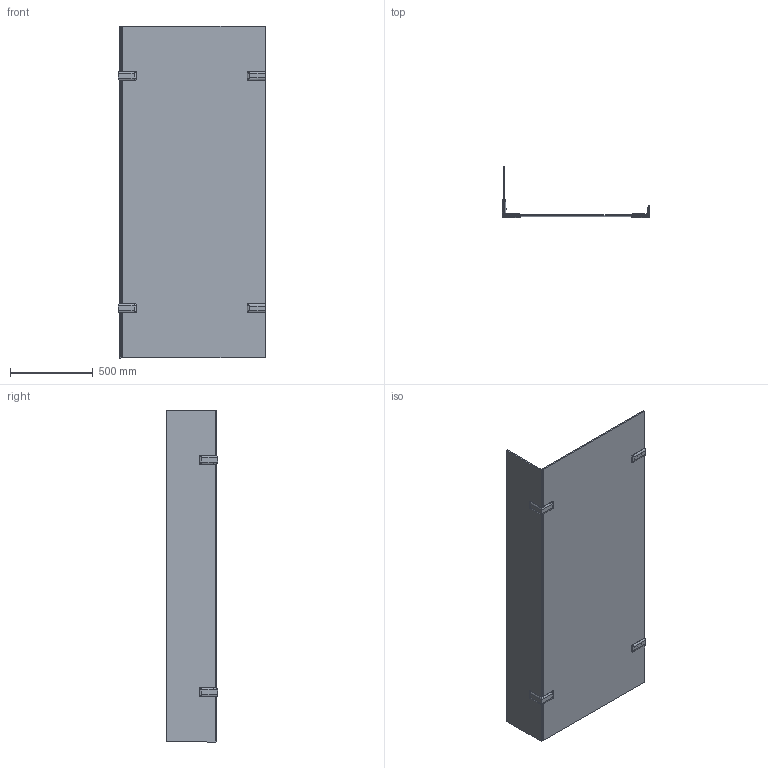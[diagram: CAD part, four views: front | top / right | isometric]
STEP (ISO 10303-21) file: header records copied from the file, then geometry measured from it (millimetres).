
FILE_DESCRIPTION(/* description */ (''),/* implementation_level */ '2;1');
FILE_NAME(/* name */ 'D:\2\GLASS LINE GK-882BN\GLASS LINE GK-882BN правая модель\GLASS LINE GK-882BN ПРАВАЯ-3D.stp',/* time_stamp */ '2020-04-30T19:35:04+03:00',/* author */ ('User'),/* organization */ (''),/* preprocessor_version */ 'ST-DEVELOPER v15.2',/* originating_system */ 'Autodesk Inventor 2014',/* authorisation */ '');
FILE_SCHEMA (('AUTOMOTIVE_DESIGN { 1 0 10303 214 3 1 1 }'));
Length unit declared in the file: millimetre
Products named in the file (1): GLASS LINE GK-882BN ПРАВАЯ-3D
Bounding box: 887 x 308 x 2000 mm (x, y, z)
Volume: 19068295.2 mm3; surface area: 4818602.9 mm2
Topology: 1 solids, 15 shells, 261 faces, 617 edges, 376 vertices
Faces by surface type: plane 109, cylinder 80, bspline 36, torus 22, sphere 8, cone 6
Full cylindrical faces by diameter (mm): 4.917 x4, 13 x8, 16 x8, 28 x2, 28.5 x2, 40 x2
Entity records: 9493 total; most frequent: CARTESIAN_POINT 3569, DIRECTION 1125, ORIENTED_EDGE 1086, EDGE_CURVE 543, AXIS2_PLACEMENT_3D 420, VERTEX_POINT 368, EDGE_LOOP 345, LINE 285
